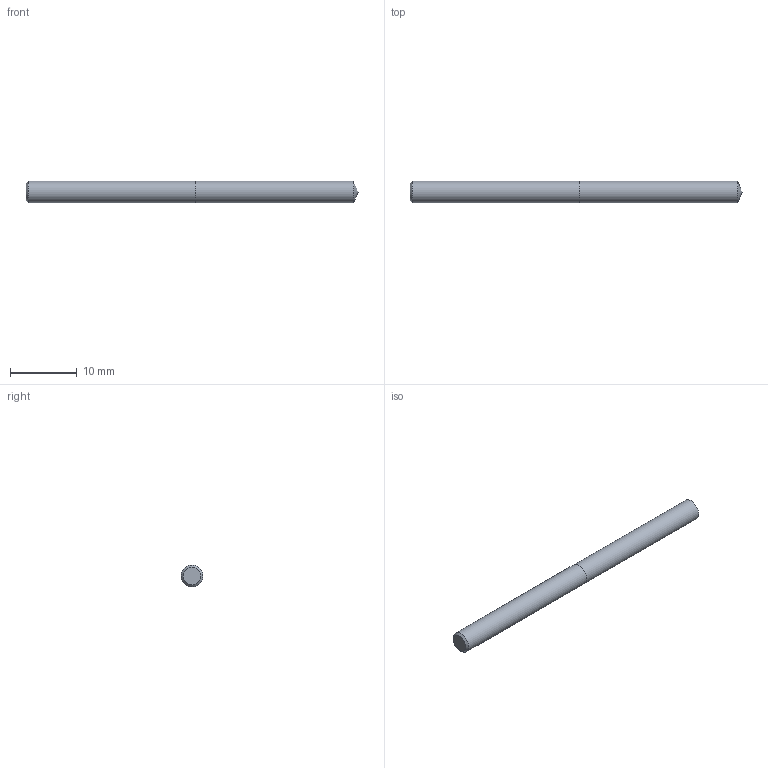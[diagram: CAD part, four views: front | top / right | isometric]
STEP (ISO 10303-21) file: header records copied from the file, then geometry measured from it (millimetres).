
FILE_DESCRIPTION (( 'STEP AP214' ), '1' );
FILE_NAME ('03-2372.STEP', '2022-06-03T06:52:54', ( 'USER' ), ( '' ), 'SwSTEP 2.0', 'SolidWorks 2018', '' );
FILE_SCHEMA (( 'AUTOMOTIVE_DESIGN' ));
Length unit declared in the file: inch
Products named in the file (1): 03-2372
Bounding box: 49.89 x 3.26 x 3.26 mm (x, y, z)
Volume: 413.1 mm3; surface area: 536.7 mm2
Topology: 2 solids, 2 shells, 7 faces, 11 edges, 7 vertices
Faces by surface type: plane 3, cylinder 2, cone 2
Full cylindrical faces by diameter (mm): 3.264 x2
Entity records: 214 total; most frequent: DIRECTION 26, CARTESIAN_POINT 18, AXIS2_PLACEMENT_3D 13, ORIENTED_EDGE 10, EDGE_LOOP 10, FACE_OUTER_BOUND 9, LENGTH_MEASURE_WITH_UNIT 7, ADVANCED_FACE 7
